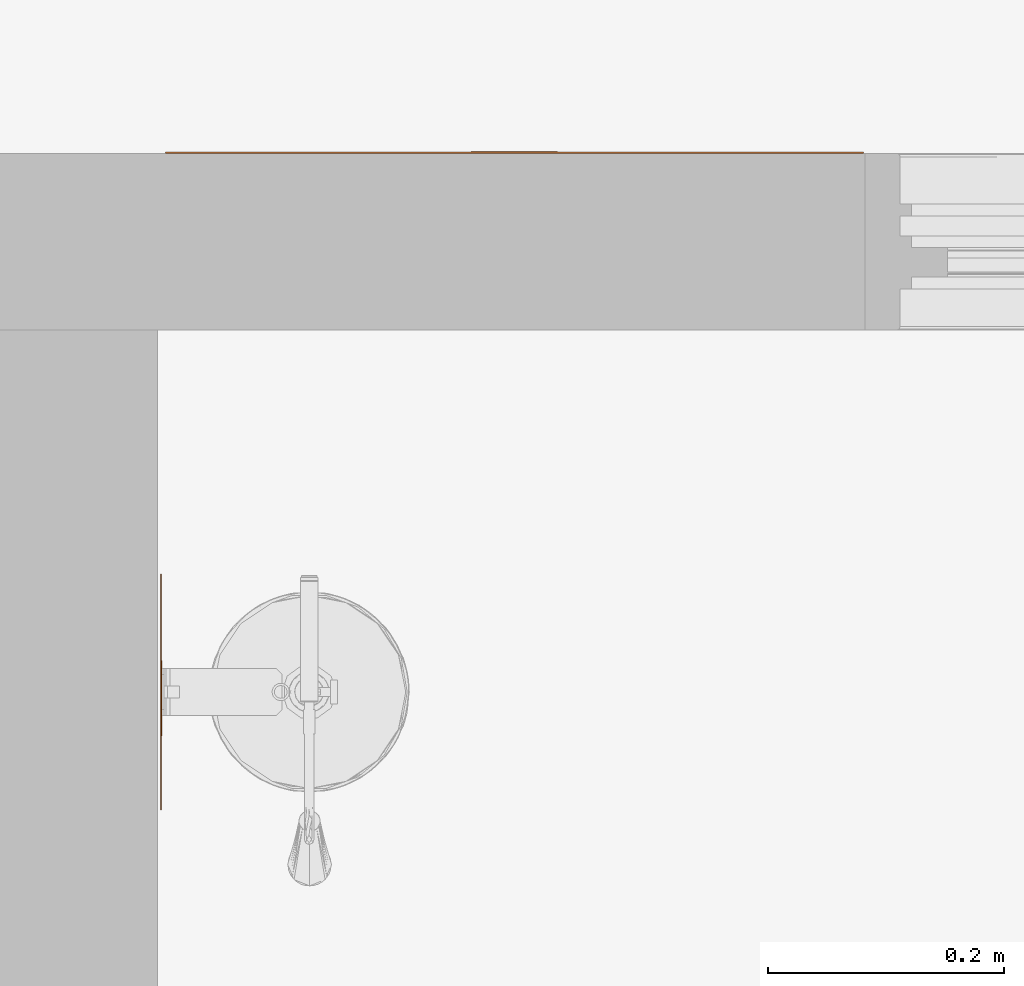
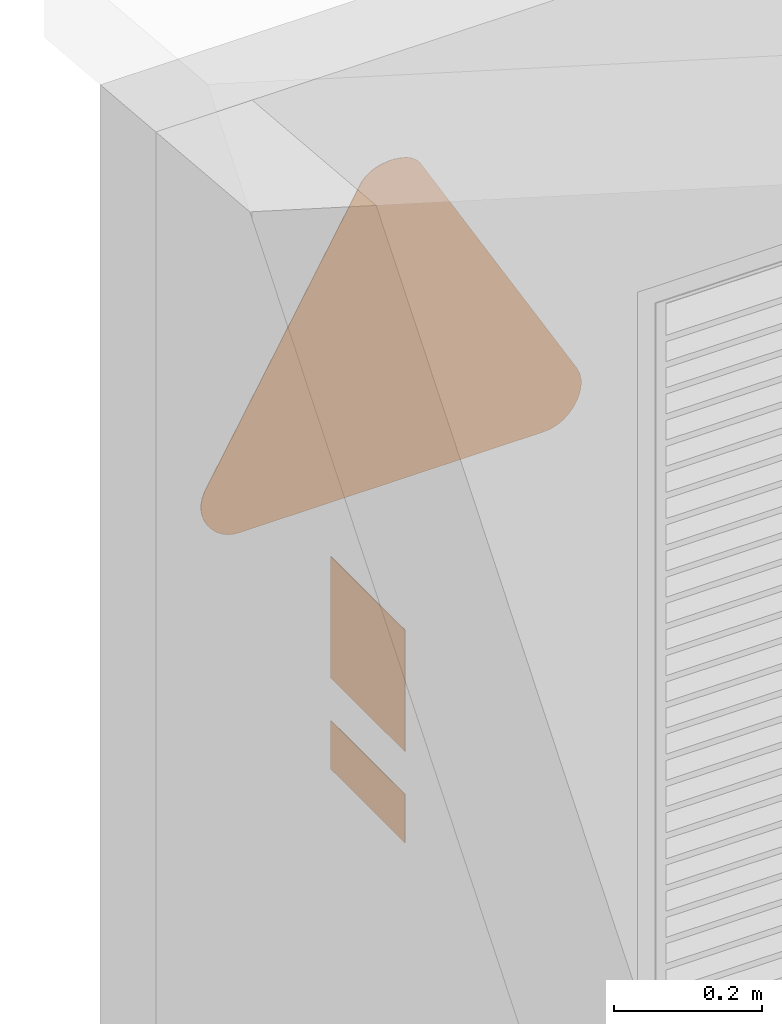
# One storey, part 108 of 119: 3 proxies.
"""IFC2X3 building model written with IfcOpenShell, lengths in metres."""

from ifc_helpers import new_model, entity, si_unit, converted_unit, derived_unit, direction, frame, frame_2d, origin, origin_2d_with_axis, place, context, subcontext, project, spatial, polyline, circle_curve, parameter, trimmed, segment, composite_curve, rectangle, circle, outline, extrude, source, transform, mapped, material, material_list, type_object, type_shapes, element, save


model = new_model("IFC2X3")

# Units and contexts
model_context = context("Model", 3, precision=1e-05, world=origin(), true_north=direction((6.12303176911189e-17, 1.0)))
body_context = subcontext(model_context, "Body", "Model", "MODEL_VIEW")
ifc_project = project(units=[si_unit("LENGTHUNIT", "METRE"), si_unit("AREAUNIT", "SQUARE_METRE"), si_unit("VOLUMEUNIT", "CUBIC_METRE"), converted_unit("PLANEANGLEUNIT", "DEGREE", entity("IfcRatioMeasure", 0.0174532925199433), si_unit("PLANEANGLEUNIT", "RADIAN"), dimensions=[0, 0, 0, 0, 0, 0, 0]), si_unit("MASSUNIT", "GRAM", prefix="KILO"), derived_unit("MASSDENSITYUNIT", [(si_unit("MASSUNIT", "GRAM", prefix="KILO"), 1), (si_unit("LENGTHUNIT", "METRE"), -3)]), derived_unit("MOMENTOFINERTIAUNIT", [(si_unit("LENGTHUNIT", "METRE"), 4)]), si_unit("TIMEUNIT", "SECOND"), si_unit("FREQUENCYUNIT", "HERTZ"), si_unit("THERMODYNAMICTEMPERATUREUNIT", "DEGREE_CELSIUS"), derived_unit("THERMALTRANSMITTANCEUNIT", [(si_unit("MASSUNIT", "GRAM", prefix="KILO"), 1), (si_unit("THERMODYNAMICTEMPERATUREUNIT", "KELVIN"), -1), (si_unit("TIMEUNIT", "SECOND"), -3)]), derived_unit("VOLUMETRICFLOWRATEUNIT", [(si_unit("LENGTHUNIT", "METRE"), 3), (si_unit("TIMEUNIT", "SECOND"), -1)]), si_unit("ELECTRICCURRENTUNIT", "AMPERE"), si_unit("ELECTRICVOLTAGEUNIT", "VOLT"), si_unit("POWERUNIT", "WATT"), si_unit("FORCEUNIT", "NEWTON", prefix="KILO"), si_unit("ILLUMINANCEUNIT", "LUX"), si_unit("LUMINOUSFLUXUNIT", "LUMEN"), si_unit("LUMINOUSINTENSITYUNIT", "CANDELA"), derived_unit("USERDEFINED", [(si_unit("MASSUNIT", "GRAM", prefix="KILO"), -1), (si_unit("LENGTHUNIT", "METRE"), -2), (si_unit("TIMEUNIT", "SECOND"), 3), (si_unit("LUMINOUSFLUXUNIT", "LUMEN"), 1)]), derived_unit("LINEARVELOCITYUNIT", [(si_unit("LENGTHUNIT", "METRE"), 1), (si_unit("TIMEUNIT", "SECOND"), -1)]), si_unit("PRESSUREUNIT", "PASCAL"), derived_unit("USERDEFINED", [(si_unit("LENGTHUNIT", "METRE"), -2), (si_unit("MASSUNIT", "GRAM", prefix="KILO"), 1), (si_unit("TIMEUNIT", "SECOND"), -2)]), derived_unit("LINEARFORCEUNIT", [(si_unit("MASSUNIT", "GRAM", prefix="KILO"), 1), (si_unit("LENGTHUNIT", "METRE"), 1), (si_unit("TIMEUNIT", "SECOND"), -2), (si_unit("LENGTHUNIT", "METRE"), -1)]), derived_unit("PLANARFORCEUNIT", [(si_unit("MASSUNIT", "GRAM", prefix="KILO"), 1), (si_unit("LENGTHUNIT", "METRE"), 1), (si_unit("TIMEUNIT", "SECOND"), -2), (si_unit("LENGTHUNIT", "METRE"), -2)])], contexts=[model_context])

# Site, building, storey
site_placement = place(None, origin())
site = spatial("IfcSite", under=ifc_project, at=site_placement, Name="Default", CompositionType="ELEMENT")
building_placement = place(site_placement, origin())
building = spatial("IfcBuilding", under=site, at=building_placement, CompositionType="ELEMENT")
storey_placement = place(building_placement, origin())
storey = spatial("IfcBuildingStorey", under=building, at=storey_placement, Name="PAV. 01 - TÉRREO", CompositionType="ELEMENT", Elevation=0.0)

# Proxies
ifc_material_1 = material(Name="Plastico branco")
ifc_material_2 = material(Name="Plastico vermelho")
ifc_material_list_1 = material_list([ifc_material_1, ifc_material_2])
building_element_proxy_type_1 = type_object("IfcBuildingElementProxyType", Name="Sinalização de equipamentos - E05 - Extintor de incêndio:Distância 08m", PredefinedType="NOTDEFINED", material=ifc_material_1)
shared_shape_1 = source(origin(), body_context, "Body", "SweptSolid", [
    extrude(outline(composite_curve([segment(polyline([(-0.039533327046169, -0.0988107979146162), (0.0136590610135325, -0.0988107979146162)]), True, "CONTINUOUS"), segment(polyline([(0.0136590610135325, -0.0988107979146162), (0.0136590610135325, -0.0150548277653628)]), True, "CONTINUOUS"), segment(polyline([(0.0136590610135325, -0.0150548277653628), (0.0132403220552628, -0.0112272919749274)]), True, "CONTINUOUS"), segment(polyline([(0.0132403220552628, -0.0112272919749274), (0.0119841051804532, -0.00798860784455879)]), True, "CONTINUOUS"), segment(polyline([(0.0119841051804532, -0.00798860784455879), (0.00989041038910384, -0.00533877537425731)]), True, "CONTINUOUS"), segment(polyline([(0.00989041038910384, -0.00533877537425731), (0.00695923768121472, -0.00327779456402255)]), True, "CONTINUOUS"), segment(polyline([(0.00695923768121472, -0.00327779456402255), (0.00319058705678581, -0.00180566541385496)]), True, "CONTINUOUS"), segment(polyline([(0.00319058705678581, -0.00180566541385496), (-0.00141554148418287, -0.000922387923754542)]), True, "CONTINUOUS"), segment(polyline([(-0.00141554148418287, -0.000922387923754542), (-0.00685914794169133, -0.000627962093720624)]), True, "CONTINUOUS"), segment(polyline([(-0.00685914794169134, -0.000627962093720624), (-0.00685914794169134, 0.00837547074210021)]), True, "CONTINUOUS"), segment(polyline([(-0.00685914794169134, 0.00837547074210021), (0.000568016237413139, 0.00837547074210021)]), True, "CONTINUOUS"), segment(polyline([(0.000568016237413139, 0.00837547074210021), (0.021500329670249, -0.0075875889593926)]), True, "CONTINUOUS"), segment(polyline([(0.021500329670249, -0.0075875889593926), (0.021500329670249, -0.0104328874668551)]), True, "CONTINUOUS"), segment(polyline([(0.021500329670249, -0.0104328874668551), (0.0245059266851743, -0.0104328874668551)]), True, "CONTINUOUS"), segment(polyline([(0.0245059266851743, -0.0104328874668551), (0.0245059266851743, -0.00811335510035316)]), True, "CONTINUOUS"), segment(polyline([(0.0245059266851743, -0.00811335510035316), (0.0243642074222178, -0.00545038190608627)]), True, "CONTINUOUS"), segment(polyline([(0.0243642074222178, -0.00545038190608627), (0.0239570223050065, -0.0032112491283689)]), True, "CONTINUOUS"), segment(polyline([(0.0239570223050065, -0.0032112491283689), (0.0233113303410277, -0.00132119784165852)]), True, "CONTINUOUS"), segment(polyline([(0.0233113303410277, -0.00132119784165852), (0.0224540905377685, 0.00029453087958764)]), True, "CONTINUOUS"), segment(polyline([(0.0224540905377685, 0.00029453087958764), (0.0214122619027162, 0.00171069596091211)]), True, "CONTINUOUS"), segment(polyline([(0.0214122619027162, 0.00171069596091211), (0.0202128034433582, 0.00300205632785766)]), True, "CONTINUOUS"), segment(polyline([(0.0202128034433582, 0.00300205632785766), (0.0188826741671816, 0.00424337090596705)]), True, "CONTINUOUS"), segment(polyline([(0.0188826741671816, 0.00424337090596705), (0.0144021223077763, 0.00811180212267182)]), True, "CONTINUOUS"), segment(polyline([(0.0144021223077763, 0.00811180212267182), (0.0113518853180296, 0.0106145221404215)]), True, "CONTINUOUS"), segment(polyline([(0.0113518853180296, 0.0106145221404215), (0.0085825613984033, 0.0127576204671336)]), True, "CONTINUOUS"), segment(polyline([(0.0085825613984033, 0.0127576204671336), (0.00738733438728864, 0.0136170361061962)]), True, "CONTINUOUS"), segment(polyline([(0.00738733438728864, 0.0136170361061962), (0.00631521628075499, 0.0143235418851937)]), True, "CONTINUOUS"), segment(polyline([(0.00631521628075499, 0.0143235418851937), (0.00532850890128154, 0.0148903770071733)]), True, "CONTINUOUS"), segment(polyline([(0.00532850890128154, 0.0148903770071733), (0.00438926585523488, 0.0153309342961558)]), True, "CONTINUOUS"), segment(polyline([(0.00438926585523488, 0.0153309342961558), (0.00345954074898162, 0.0156586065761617)]), True, "CONTINUOUS"), segment(polyline([(0.00345954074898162, 0.0156586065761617), (0.00250138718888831, 0.0158867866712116)]), True, "CONTINUOUS"), segment(polyline([(0.00250138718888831, 0.0158867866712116), (0.00144087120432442, 0.0160289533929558)]), True, "CONTINUOUS"), segment(polyline([(0.00144087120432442, 0.0160289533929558), (-0.000108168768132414, 0.0160993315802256)]), True, "CONTINUOUS"), segment(polyline([(-0.000108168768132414, 0.0160993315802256), (-0.00685914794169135, 0.0160831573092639)]), True, "CONTINUOUS"), segment(polyline([(-0.00685914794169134, 0.0160831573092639), (-0.00685914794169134, 0.0213863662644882)]), True, "CONTINUOUS"), segment(polyline([(-0.00685914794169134, 0.0213863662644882), (-0.0177728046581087, 0.0213863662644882)]), True, "CONTINUOUS"), segment(polyline([(-0.0177728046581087, 0.0213863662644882), (-0.0177728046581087, 0.0160831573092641)]), True, "CONTINUOUS"), segment(polyline([(-0.0177728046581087, 0.0160831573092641), (-0.0288467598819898, 0.0160831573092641)]), True, "CONTINUOUS"), segment(trimmed(circle_curve(frame_2d((-0.0288467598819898, 0.0122293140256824), x_axis=(-1.0, 0.0)), 0.00385384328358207), [parameter(270.0)], [parameter(90.0000000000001)], True, "PARAMETER"), True, "CONTINUOUS"), segment(polyline([(-0.0288467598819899, 0.00837547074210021), (-0.0190151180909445, 0.00837547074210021)]), True, "CONTINUOUS"), segment(polyline([(-0.0190151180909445, 0.00837547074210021), (-0.0190151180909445, -0.000627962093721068)]), True, "CONTINUOUS"), segment(polyline([(-0.0190151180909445, -0.000627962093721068), (-0.024458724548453, -0.000922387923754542)]), True, "CONTINUOUS"), segment(polyline([(-0.024458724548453, -0.000922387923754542), (-0.0290648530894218, -0.00180566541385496)]), True, "CONTINUOUS"), segment(polyline([(-0.0290648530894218, -0.00180566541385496), (-0.0328335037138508, -0.00327779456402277)]), True, "CONTINUOUS"), segment(polyline([(-0.0328335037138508, -0.00327779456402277), (-0.03576467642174, -0.00533877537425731)]), True, "CONTINUOUS"), segment(polyline([(-0.03576467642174, -0.00533877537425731), (-0.0378583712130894, -0.00798860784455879)]), True, "CONTINUOUS"), segment(polyline([(-0.0378583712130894, -0.00798860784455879), (-0.0391145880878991, -0.0112272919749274)]), True, "CONTINUOUS"), segment(polyline([(-0.0391145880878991, -0.0112272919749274), (-0.039533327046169, -0.0150548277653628)]), True, "CONTINUOUS"), segment(polyline([(-0.039533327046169, -0.0150548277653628), (-0.039533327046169, -0.0988107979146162)]), True, "CONTINUOUS")], self_intersect=False)), frame((-0.0129371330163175, -0.0011, 1.94006139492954), z_axis=(0.0, 1.0, 0.0), x_axis=(-1.0, 0.0, 0.0)), (0.0, 0.0, 1.0), 0.0011),
    extrude(rectangle(XDim=0.001, YDim=0.179, at=origin_2d_with_axis()), frame((0.0, -0.0005, 1.8105), z_axis=(0.0, 0.0, 1.0), x_axis=(0.0, 1.0, 0.0)), (0.0, 0.0, 1.0), 0.179),
    extrude(outline(polyline([(-0.100000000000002, -0.1), (0.100000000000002, -0.1), (0.100000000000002, 0.1), (-0.100000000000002, 0.1), (-0.100000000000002, -0.1)]), holes=[polyline([(-0.0895000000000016, -0.0895000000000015), (-0.0895000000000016, 0.0894999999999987), (0.0894999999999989, 0.0894999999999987), (0.0894999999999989, -0.0895000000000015), (-0.0895000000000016, -0.0895000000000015)])]), frame((0.0, -0.001, 1.9), z_axis=(0.0, 1.0, 0.0), x_axis=(0.0, 0.0, -1.0)), (0.0, 0.0, 1.0), 0.001),
])
type_shapes(building_element_proxy_type_1, [shared_shape_1])
proxy_1_placement = place(storey_placement, frame((87.6012799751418, 33.3800220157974, 0.0), z_axis=(0.0, 0.0, 1.0), x_axis=(0.0, 1.0, 0.0)))
element("IfcBuildingElementProxy", 1, at=proxy_1_placement, inside=storey, type_object=building_element_proxy_type_1, material=ifc_material_list_1, Name="Sinalização de equipamentos - E05 - Extintor de incêndio:Distância 08m", ObjectType="Sinalização de equipamentos - E05 - Extintor de incêndio:Distância 08m", context=body_context, shape_type="MappedRepresentation", body=[
    mapped(shared_shape_1, transform((0.0, 0.0, 0.0), scale=1.0)),
])
ifc_material_3 = material(Name="Plastico Preto")
ifc_material_4 = material(Name="Plastico azul claro")
ifc_material_5 = material(Name="Plastico Verde")
ifc_material_list_2 = material_list([ifc_material_3, ifc_material_4, ifc_material_2, ifc_material_1, ifc_material_5])
building_element_proxy_type_2 = type_object("IfcBuildingElementProxyType", Name="Sinalização de equipamentos - E05 - Extintor de incêndio - TIPO 2:Placa de extintor - E6-A", PredefinedType="NOTDEFINED", material=ifc_material_3)
shared_shape_2 = source(origin(), body_context, "Body", "SweptSolid", [
    extrude(rectangle(XDim=0.001, YDim=0.0243464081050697, at=origin_2d_with_axis()), frame((0.0791678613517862, -0.0005, 0.0143679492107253), z_axis=(0.0, 0.0, 1.0), x_axis=(0.0, 1.0, 0.0)), (0.0, 0.0, 1.0), 0.0243153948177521),
    extrude(rectangle(XDim=0.001, YDim=0.0243464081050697, at=origin_2d_with_axis()), frame((0.0514092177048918, -0.0005, 0.0143679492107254), z_axis=(0.0, 0.0, 1.0), x_axis=(0.0, 1.0, 0.0)), (0.0, 0.0, 1.0), 0.0243153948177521),
    extrude(rectangle(XDim=0.001, YDim=0.0243464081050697, at=origin_2d_with_axis()), frame((0.023605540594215, -0.0005, 0.0143679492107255), z_axis=(0.0, 0.0, 1.0), x_axis=(0.0, 1.0, 0.0)), (0.0, 0.0, 1.0), 0.0243153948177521),
    extrude(rectangle(XDim=0.001, YDim=0.0243464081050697, at=origin_2d_with_axis()), frame((-0.00415310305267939, -0.0005, 0.0143679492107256), z_axis=(0.0, 0.0, 1.0), x_axis=(0.0, 1.0, 0.0)), (0.0, 0.0, 1.0), 0.0243153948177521),
    extrude(outline(polyline([(-0.0399999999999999, -0.1), (0.0399999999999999, -0.1), (0.0399999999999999, 0.1), (-0.0399999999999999, 0.1), (-0.0399999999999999, -0.1)]), holes=[polyline([(-0.0319999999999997, 0.091), (-0.0150022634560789, 0.091), (-0.0150022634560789, -0.091), (-0.0319999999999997, -0.091), (-0.0319999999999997, 0.091)]), polyline([(-0.010791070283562, 0.091), (0.0319999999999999, 0.091), (0.0319999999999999, 0.0473282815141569), (-0.010791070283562, 0.0473282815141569), (-0.010791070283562, 0.091)]), polyline([(0.00131665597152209, 0.0441091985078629), (0.0256320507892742, 0.0441091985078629), (0.0256320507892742, 0.0197627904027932), (0.00131665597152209, 0.0197627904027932), (0.00131665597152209, 0.0441091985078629)]), polyline([(0.00131665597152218, 0.0163263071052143), (0.0256320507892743, 0.0163263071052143), (0.0256320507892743, -0.00802010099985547), (0.00131665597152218, -0.00802010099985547), (0.00131665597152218, 0.0163263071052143)]), polyline([(0.00131665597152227, -0.0114323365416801), (0.0256320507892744, -0.0114323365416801), (0.0256320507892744, -0.0357787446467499), (0.00131665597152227, -0.0357787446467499), (0.00131665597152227, -0.0114323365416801)]), polyline([(0.00131665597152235, -0.0635824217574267), (0.00131665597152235, -0.039236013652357), (0.0256320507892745, -0.039236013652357), (0.0256320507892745, -0.0635824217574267), (0.00131665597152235, -0.0635824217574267)]), polyline([(0.00131665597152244, -0.0669946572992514), (0.0256320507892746, -0.0669946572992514), (0.0256320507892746, -0.091), (0.00131665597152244, -0.091), (0.00131665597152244, -0.0669946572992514)])]), frame((0.0, -0.001, 0.0399999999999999), z_axis=(0.0, 1.0, 0.0), x_axis=(0.0, 0.0, -1.0)), (0.0, 0.0, 1.0), 0.001),
    extrude(outline(composite_curve([segment(trimmed(circle_curve(frame_2d((-0.00182713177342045, 0.0030692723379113), x_axis=(1.0, 0.0)), 0.00333179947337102), [parameter(180.0)], [parameter(270.0)], True, "PARAMETER"), True, "CONTINUOUS"), segment(polyline([(-0.00182713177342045, -0.000262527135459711), (-0.000430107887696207, -0.000262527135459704)]), True, "CONTINUOUS"), segment(polyline([(-0.000430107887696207, -0.000262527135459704), (-0.000430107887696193, -0.00350797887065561)]), True, "CONTINUOUS"), segment(polyline([(-0.000430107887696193, -0.00350797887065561), (-0.00249820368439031, -0.00350797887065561)]), True, "CONTINUOUS"), segment(polyline([(-0.00249820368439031, -0.00350797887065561), (-0.00742535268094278, 7.18044171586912e-05)]), True, "CONTINUOUS"), segment(polyline([(-0.00742535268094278, 7.18044171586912e-05), (-0.00742535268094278, 0.00166630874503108)]), True, "CONTINUOUS"), segment(polyline([(-0.00742535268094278, 0.00166630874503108), (-0.00871124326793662, 0.00166630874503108)]), True, "CONTINUOUS"), segment(polyline([(-0.00871124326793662, 0.00166630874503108), (-0.00846384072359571, -0.00134355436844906)]), True, "CONTINUOUS"), segment(trimmed(circle_curve(frame_2d((-0.00608099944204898, -0.00114769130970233), x_axis=(1.0, 0.0)), 0.00239087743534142), [parameter(184.698993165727)], [parameter(232.0)], True, "PARAMETER"), True, "CONTINUOUS"), segment(polyline([(-0.00755297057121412, -0.00303172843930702), (-0.0030496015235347, -0.00655014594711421)]), True, "CONTINUOUS"), segment(polyline([(-0.0030496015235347, -0.00655014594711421), (-0.000124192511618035, -0.00655014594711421)]), True, "CONTINUOUS"), segment(polyline([(-0.000124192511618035, -0.00655014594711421), (-0.000124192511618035, -0.00788602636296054)]), True, "CONTINUOUS"), segment(polyline([(-0.000124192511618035, -0.00788602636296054), (0.003207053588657, -0.00788602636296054)]), True, "CONTINUOUS"), segment(polyline([(0.003207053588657, -0.00788602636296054), (0.003207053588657, -0.00698801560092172)]), True, "CONTINUOUS"), segment(polyline([(0.003207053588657, -0.00698801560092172), (0.00540783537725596, -0.00698801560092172)]), True, "CONTINUOUS"), segment(polyline([(0.00540783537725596, -0.00698801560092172), (0.00665542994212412, -0.00574042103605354)]), True, "CONTINUOUS"), segment(polyline([(0.00665542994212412, -0.00574042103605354), (0.00665542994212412, -0.00450724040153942)]), True, "CONTINUOUS"), segment(polyline([(0.00665542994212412, -0.00450724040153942), (0.00491919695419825, -0.00324579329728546)]), True, "CONTINUOUS"), segment(polyline([(0.00491919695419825, -0.00324579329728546), (0.00355615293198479, -0.00324579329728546)]), True, "CONTINUOUS"), segment(polyline([(0.00355615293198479, -0.00324579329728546), (0.00355615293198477, -0.000262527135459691)]), True, "CONTINUOUS"), segment(polyline([(0.00355615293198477, -0.000262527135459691), (0.00500257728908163, -0.000262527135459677)]), True, "CONTINUOUS"), segment(trimmed(circle_curve(frame_2d((0.00500257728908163, 0.00284153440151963), x_axis=(1.0, 0.0)), 0.00310406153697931), [parameter(270.0)], [parameter(1.52666624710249e-13)], True, "PARAMETER"), True, "CONTINUOUS"), segment(polyline([(0.00810663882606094, 0.00284153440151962), (0.0081066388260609, 0.0313568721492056)]), True, "CONTINUOUS"), segment(polyline([(0.0081066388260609, 0.0313568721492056), (-0.00515893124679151, 0.0313568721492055)]), True, "CONTINUOUS"), segment(polyline([(-0.00515893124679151, 0.0313568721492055), (-0.00515893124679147, 0.00306927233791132)]), True, "CONTINUOUS")], self_intersect=False)), frame((-0.0705753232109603, -0.001, 0.0413479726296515), z_axis=(0.0, 1.0, 0.0), x_axis=(1.0, 0.0, 0.0)), (0.0, 0.0, 1.0), 0.001),
    extrude(rectangle(XDim=0.001, YDim=0.0243464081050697, at=origin_2d_with_axis()), frame((-0.0319359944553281, -0.0005, 0.0143679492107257), z_axis=(0.0, 0.0, 1.0), x_axis=(0.0, 1.0, 0.0)), (0.0, 0.0, 1.0), 0.0243153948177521),
    extrude(outline(polyline([(-0.0218358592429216, -0.021395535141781), (0.0218358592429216, -0.021395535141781), (0.0218358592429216, 0.021395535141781), (-0.0218358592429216, 0.021395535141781), (-0.0218358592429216, -0.021395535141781)]), holes=[composite_curve([segment(polyline([(-0.00669545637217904, -0.0194044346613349), (-0.00669545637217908, 0.00911090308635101)]), True, "CONTINUOUS"), segment(trimmed(circle_curve(frame_2d((-0.00359139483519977, 0.00911090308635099), x_axis=(-1.0, 0.0)), 0.00310406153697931), [parameter(270.0)], [parameter(360.0)], True, "PARAMETER"), False, "CONTINUOUS"), segment(polyline([(-0.0035913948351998, 0.0122149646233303), (-0.00214497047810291, 0.0122149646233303)]), True, "CONTINUOUS"), segment(polyline([(-0.00214497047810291, 0.0122149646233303), (-0.00214497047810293, 0.0151982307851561)]), True, "CONTINUOUS"), segment(polyline([(-0.00214497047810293, 0.0151982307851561), (-0.0035080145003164, 0.0151982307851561)]), True, "CONTINUOUS"), segment(polyline([(-0.0035080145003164, 0.0151982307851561), (-0.00524424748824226, 0.01645967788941)]), True, "CONTINUOUS"), segment(polyline([(-0.00524424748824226, 0.01645967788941), (-0.00524424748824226, 0.0176928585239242)]), True, "CONTINUOUS"), segment(polyline([(-0.00524424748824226, 0.0176928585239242), (-0.0039966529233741, 0.0189404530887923)]), True, "CONTINUOUS"), segment(polyline([(-0.0039966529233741, 0.0189404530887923), (-0.00179587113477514, 0.0189404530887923)]), True, "CONTINUOUS"), segment(polyline([(-0.00179587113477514, 0.0189404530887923), (-0.00179587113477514, 0.0198384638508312)]), True, "CONTINUOUS"), segment(polyline([(-0.00179587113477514, 0.0198384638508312), (0.00153537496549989, 0.0198384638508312)]), True, "CONTINUOUS"), segment(polyline([(0.00153537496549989, 0.0198384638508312), (0.00153537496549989, 0.0185025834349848)]), True, "CONTINUOUS"), segment(polyline([(0.00153537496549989, 0.0185025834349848), (0.00446078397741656, 0.0185025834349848)]), True, "CONTINUOUS"), segment(polyline([(0.00446078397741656, 0.0185025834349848), (0.00896415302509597, 0.0149841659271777)]), True, "CONTINUOUS"), segment(trimmed(circle_curve(frame_2d((0.00749218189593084, 0.0131001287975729), x_axis=(-1.0, 0.0)), 0.00239087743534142), [parameter(184.698993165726)], [parameter(231.999999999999)], True, "PARAMETER"), False, "CONTINUOUS"), segment(polyline([(0.00987502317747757, 0.0132959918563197), (0.0101224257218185, 0.0102861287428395)]), True, "CONTINUOUS"), segment(polyline([(0.0101224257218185, 0.0102861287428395), (0.00883653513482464, 0.0102861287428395)]), True, "CONTINUOUS"), segment(polyline([(0.00883653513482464, 0.0102861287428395), (0.00883653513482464, 0.0118806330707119)]), True, "CONTINUOUS"), segment(polyline([(0.00883653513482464, 0.0118806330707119), (0.00390938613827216, 0.0154604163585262)]), True, "CONTINUOUS"), segment(polyline([(0.00390938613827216, 0.0154604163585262), (0.00184129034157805, 0.0154604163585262)]), True, "CONTINUOUS"), segment(polyline([(0.00184129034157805, 0.0154604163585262), (0.00184129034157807, 0.0122149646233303)]), True, "CONTINUOUS"), segment(polyline([(0.00184129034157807, 0.0122149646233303), (0.00323831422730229, 0.0122149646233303)]), True, "CONTINUOUS"), segment(trimmed(circle_curve(frame_2d((0.00323831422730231, 0.00888316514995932), x_axis=(-1.0, 0.0)), 0.00333179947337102), [parameter(180.0)], [parameter(270.0)], True, "PARAMETER"), False, "CONTINUOUS"), segment(polyline([(0.00657011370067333, 0.00888316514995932), (0.00657011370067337, -0.0194044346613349)]), True, "CONTINUOUS"), segment(polyline([(0.00657011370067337, -0.0194044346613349), (-0.00669545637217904, -0.0194044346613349)]), True, "CONTINUOUS")], self_intersect=False)]), frame((-0.0691641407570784, -0.001, 0.0293955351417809), z_axis=(0.0, 1.0, 0.0), x_axis=(-1.0, 0.0, 0.0)), (0.0, 0.0, 1.0), 0.001),
    extrude(rectangle(XDim=0.001, YDim=0.182, at=origin_2d_with_axis()), frame((0.0, -0.0005, 0.0550022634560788), z_axis=(0.0, 0.0, 1.0), x_axis=(0.0, 1.0, 0.0)), (0.0, 0.0, 1.0), 0.0169977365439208),
])
type_shapes(building_element_proxy_type_2, [shared_shape_2])
proxy_2_placement = place(storey_placement, frame((87.6012799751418, 33.3800220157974, 1.65), z_axis=(0.0, 0.0, 1.0), x_axis=(0.0, 1.0, 0.0)))
element("IfcBuildingElementProxy", 2, at=proxy_2_placement, inside=storey, type_object=building_element_proxy_type_2, material=ifc_material_list_2, Name="Sinalização de equipamentos - E05 - Extintor de incêndio - TIPO 2:Placa de extintor - E6-A", ObjectType="Sinalização de equipamentos - E05 - Extintor de incêndio - TIPO 2:Placa de extintor - E6-A", context=body_context, shape_type="MappedRepresentation", body=[
    mapped(shared_shape_2, transform((0.0, 0.0, 0.0), scale=1.0)),
])
ifc_material_6 = material(Name="Plastico Amarelo")
ifc_material_list_3 = material_list([ifc_material_6, ifc_material_3])
building_element_proxy_type_3 = type_object("IfcBuildingElementProxyType", Name="Sinalização de Alerta - A01 - Alerta geral:Distância 20m", PredefinedType="NOTDEFINED", material=ifc_material_6)
shared_shape_3 = source(origin(), body_context, "Body", "SweptSolid", [
    extrude(outline(polyline([(-0.2363, -0.136066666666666), (0.2363, -0.136066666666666), (0.0, 0.272133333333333), (-0.2363, -0.136066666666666)])), frame((0.0, -0.001, 1.99741666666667), z_axis=(0.0, 1.0, 0.0), x_axis=(-1.0, 0.0, 0.0)), (0.0, 0.0, 1.0), 0.001),
    extrude(outline(polyline([(-0.0185971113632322, -0.110865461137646), (-0.0118406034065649, -0.110865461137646), (-0.00571865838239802, -0.10844509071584), (-0.000127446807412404, -0.103550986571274), (0.00503686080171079, -0.0961297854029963), (0.00987180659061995, -0.0861692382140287), (0.0144036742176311, -0.0741230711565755), (0.0186136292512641, -0.0607400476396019), (0.0224821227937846, -0.0467736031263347), (0.045212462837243, 0.0485969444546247), (0.0470702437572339, 0.0586497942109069), (0.0478482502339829, 0.0687886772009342), (0.0468316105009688, 0.0787219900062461), (0.0433136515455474, 0.0881537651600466), (0.0370350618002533, 0.0965499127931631), (0.0284054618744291, 0.10302028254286), (0.0178892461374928, 0.106645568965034), (0.00676569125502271, 0.106650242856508), (-0.0035028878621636, 0.10334994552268), (-0.0121775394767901, 0.0974621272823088), (-0.0185806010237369, 0.0896945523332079), (-0.0227829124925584, 0.0806366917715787), (-0.0253558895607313, 0.0707989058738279), (-0.0268801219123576, 0.0606901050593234), (-0.0353277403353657, -0.0226915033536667), (-0.0365141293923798, -0.036877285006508), (-0.0374147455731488, -0.0513415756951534), (-0.0378022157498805, -0.0653658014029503), (-0.0374491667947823, -0.0782313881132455), (-0.0361290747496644, -0.0892244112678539), (-0.0336690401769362, -0.0979245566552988), (-0.0299808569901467, -0.104375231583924), (-0.0249837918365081, -0.108660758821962), (-0.0185971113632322, -0.110865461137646)])), frame((0.0, -0.0014, 2.0868644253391), z_axis=(0.0, 1.0, 0.0), x_axis=(-0.986220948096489, 0.0, 0.165433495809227)), (0.0, 0.0, 1.0), 0.0014),
    extrude(circle(Radius=0.0349, at=frame_2d((-4.63394618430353e-19, -2.70716782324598e-16), x_axis=(1.0, 0.0))), frame((0.0, -0.0014, 1.91035), z_axis=(0.0, 1.0, 0.0), x_axis=(1.0, 0.0, 0.0)), (0.0, 0.0, 1.0), 0.0014),
    extrude(outline(polyline([(0.211480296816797, -0.24282133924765), (0.219981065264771, -0.24282133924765), (0.228517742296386, -0.240763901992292), (0.236864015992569, -0.236908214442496), (0.244793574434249, -0.231513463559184), (0.252080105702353, -0.224838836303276), (0.258497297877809, -0.217143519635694), (0.263818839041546, -0.208686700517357), (0.267818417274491, -0.199727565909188), (0.270269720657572, -0.190525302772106), (0.270946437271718, -0.181339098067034), (0.269622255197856, -0.172428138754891), (0.09832182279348, 0.285981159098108), (0.0931914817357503, 0.295327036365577), (0.0865410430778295, 0.303122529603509), (0.0786504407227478, 0.309387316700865), (0.0697996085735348, 0.314141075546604), (0.060268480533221, 0.317403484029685), (0.0503369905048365, 0.319194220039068), (0.0402850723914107, 0.319532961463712), (0.0303926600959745, 0.318439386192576), (0.0209396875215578, 0.315933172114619), (0.0122060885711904, 0.312033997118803), (0.00447179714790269, 0.306761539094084), (-0.00198325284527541, 0.300135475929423), (-0.303883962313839, -0.0653795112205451), (-0.31037665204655, -0.074731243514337), (-0.314610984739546, -0.0849418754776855), (-0.316707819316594, -0.0956824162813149), (-0.31678801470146, -0.106623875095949), (-0.314972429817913, -0.117437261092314), (-0.311381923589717, -0.127793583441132), (-0.306137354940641, -0.137363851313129), (-0.299359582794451, -0.145819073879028), (-0.291169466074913, -0.152830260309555), (-0.281687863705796, -0.158068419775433), (-0.271035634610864, -0.161204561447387), (0.211480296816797, -0.24282133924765)]), holes=[polyline([(0.209094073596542, -0.181642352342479), (-0.256113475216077, -0.103880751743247), (0.0448491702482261, 0.260498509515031), (0.209094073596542, -0.181642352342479)])]), frame((0.00689208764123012, -0.001, 1.99266234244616), z_axis=(0.0, 1.0, 0.0), x_axis=(0.636823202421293, 0.0, 0.771009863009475)), (0.0, 0.0, 1.0), 0.001),
])
type_shapes(building_element_proxy_type_3, [shared_shape_3])
proxy_3_placement = place(storey_placement, frame((87.901279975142, 33.8370741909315, 0.0), z_axis=(0.0, 0.0, 1.0), x_axis=(-1.0, 0.0, 0.0)))
element("IfcBuildingElementProxy", 3, at=proxy_3_placement, inside=storey, type_object=building_element_proxy_type_3, material=ifc_material_list_3, Name="Sinalização de Alerta - A01 - Alerta geral:Distância 20m", ObjectType="Sinalização de Alerta - A01 - Alerta geral:Distância 20m", context=body_context, shape_type="MappedRepresentation", body=[
    mapped(shared_shape_3, transform((0.0, 0.0, 0.0), scale=1.0)),
])

save(model, "model.ifc")
